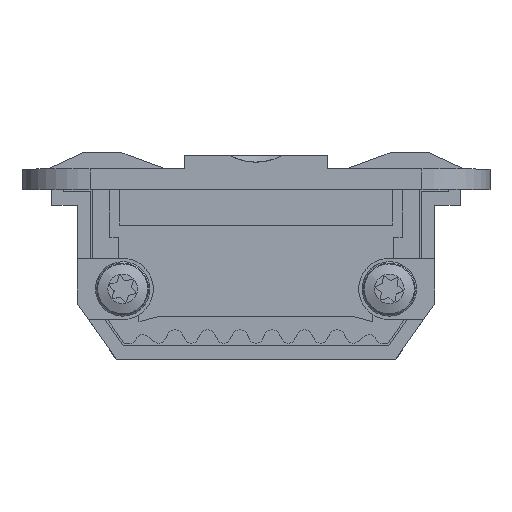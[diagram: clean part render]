
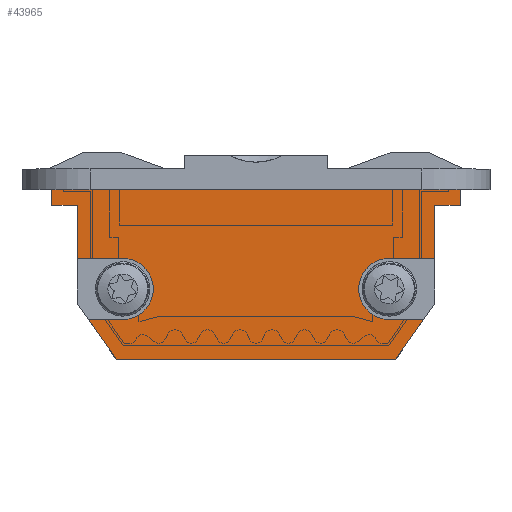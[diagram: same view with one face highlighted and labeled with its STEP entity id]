
A CAD part, top view. The second image highlights one B-rep face of the part: STEP entity #43965.
In plain terms, the highlighted planar face has unit normal (0, 0, 1) as drawn and (0, -1, 0) by its records, which use the part's own axes.
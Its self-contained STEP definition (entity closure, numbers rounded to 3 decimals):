
#2656=LINE('',#56630,#5562);
#2673=LINE('',#56666,#5579);
#2692=LINE('',#56704,#5598);
#2711=LINE('',#56744,#5617);
#2717=LINE('',#56756,#5623);
#2720=LINE('',#56762,#5626);
#2724=LINE('',#56776,#5630);
#2725=LINE('',#56778,#5631);
#2726=LINE('',#56780,#5632);
#2727=LINE('',#56781,#5633);
#2728=LINE('',#56785,#5634);
#2729=LINE('',#56786,#5635);
#2730=LINE('',#56790,#5636);
#2731=LINE('',#56791,#5637);
#5562=VECTOR('',#48601,1000.);
#5579=VECTOR('',#48626,1000.);
#5598=VECTOR('',#48651,1000.);
#5617=VECTOR('',#48678,1000.);
#5623=VECTOR('',#48686,1000.);
#5626=VECTOR('',#48691,1000.);
#5630=VECTOR('',#48705,1000.);
#5631=VECTOR('',#48708,1000.);
#5632=VECTOR('',#48709,1000.);
#5633=VECTOR('',#48710,1000.);
#5634=VECTOR('',#48713,1000.);
#5635=VECTOR('',#48714,1000.);
#5636=VECTOR('',#48717,1000.);
#5637=VECTOR('',#48718,1000.);
#8177=CIRCLE('',#45945,2.25);
#8178=CIRCLE('',#45946,2.25);
#9612=ORIENTED_EDGE('',*,*,#18841,.T.);
#9613=ORIENTED_EDGE('',*,*,#18767,.T.);
#9614=ORIENTED_EDGE('',*,*,#18785,.F.);
#9615=ORIENTED_EDGE('',*,*,#18842,.F.);
#9616=ORIENTED_EDGE('',*,*,#18804,.T.);
#9617=ORIENTED_EDGE('',*,*,#18843,.T.);
#9618=ORIENTED_EDGE('',*,*,#18844,.T.);
#9619=ORIENTED_EDGE('',*,*,#18845,.T.);
#9620=ORIENTED_EDGE('',*,*,#18834,.T.);
#9621=ORIENTED_EDGE('',*,*,#18840,.T.);
#9622=ORIENTED_EDGE('',*,*,#18825,.T.);
#9623=ORIENTED_EDGE('',*,*,#18846,.T.);
#9624=ORIENTED_EDGE('',*,*,#18847,.T.);
#9625=ORIENTED_EDGE('',*,*,#18848,.T.);
#9626=ORIENTED_EDGE('',*,*,#18831,.T.);
#9627=ORIENTED_EDGE('',*,*,#18849,.T.);
#18767=EDGE_CURVE('',#23485,#23484,#2656,.T.);
#18785=EDGE_CURVE('',#23499,#23484,#2673,.T.);
#18804=EDGE_CURVE('',#23516,#23515,#2692,.T.);
#18825=EDGE_CURVE('',#23533,#23534,#2711,.T.);
#18831=EDGE_CURVE('',#23538,#23537,#2717,.T.);
#18834=EDGE_CURVE('',#23540,#23541,#2720,.T.);
#18840=EDGE_CURVE('',#23541,#23533,#2724,.T.);
#18841=EDGE_CURVE('',#23545,#23485,#2725,.T.);
#18842=EDGE_CURVE('',#23516,#23499,#2726,.T.);
#18843=EDGE_CURVE('',#23515,#23546,#2727,.T.);
#18844=EDGE_CURVE('',#23546,#23547,#8177,.T.);
#18845=EDGE_CURVE('',#23547,#23540,#2728,.T.);
#18846=EDGE_CURVE('',#23534,#23548,#2729,.T.);
#18847=EDGE_CURVE('',#23548,#23549,#8178,.T.);
#18848=EDGE_CURVE('',#23549,#23538,#2730,.T.);
#18849=EDGE_CURVE('',#23537,#23545,#2731,.T.);
#23484=VERTEX_POINT('',#56629);
#23485=VERTEX_POINT('',#56631);
#23499=VERTEX_POINT('',#56665);
#23515=VERTEX_POINT('',#56703);
#23516=VERTEX_POINT('',#56705);
#23533=VERTEX_POINT('',#56745);
#23534=VERTEX_POINT('',#56746);
#23537=VERTEX_POINT('',#56755);
#23538=VERTEX_POINT('',#56757);
#23540=VERTEX_POINT('',#56763);
#23541=VERTEX_POINT('',#56764);
#23545=VERTEX_POINT('',#56779);
#23546=VERTEX_POINT('',#56782);
#23547=VERTEX_POINT('',#56784);
#23548=VERTEX_POINT('',#56787);
#23549=VERTEX_POINT('',#56789);
#26680=EDGE_LOOP('',(#9612,#9613,#9614,#9615,#9616,#9617,#9618,#9619,#9620,
#9621,#9622,#9623,#9624,#9625,#9626,#9627));
#28813=FACE_BOUND('',#26680,.T.);
#30868=PLANE('',#45944);
#43965=ADVANCED_FACE('',(#28813),#30868,.F.);
#45944=AXIS2_PLACEMENT_3D('',#56777,#48706,#48707);
#45945=AXIS2_PLACEMENT_3D('',#56783,#48711,#48712);
#45946=AXIS2_PLACEMENT_3D('',#56788,#48715,#48716);
#48601=DIRECTION('',(-1.,0.,0.));
#48626=DIRECTION('',(0.,0.,1.));
#48651=DIRECTION('',(0.,0.,-1.));
#48678=DIRECTION('',(0.574,0.,0.819));
#48686=DIRECTION('',(0.,0.,1.));
#48691=DIRECTION('',(0.574,0.,-0.819));
#48705=DIRECTION('',(1.,0.,0.));
#48706=DIRECTION('',(0.,1.,0.));
#48707=DIRECTION('',(0.,0.,1.));
#48708=DIRECTION('',(0.,0.,1.));
#48709=DIRECTION('',(-1.,0.,0.));
#48710=DIRECTION('',(1.,0.,0.));
#48711=DIRECTION('',(0.,1.,0.));
#48712=DIRECTION('',(-1.,0.,0.));
#48713=DIRECTION('',(-1.,0.,0.));
#48714=DIRECTION('',(-1.,0.,0.));
#48715=DIRECTION('',(0.,1.,0.));
#48716=DIRECTION('',(1.,0.,0.));
#48717=DIRECTION('',(1.,0.,0.));
#48718=DIRECTION('',(1.,0.,0.));
#56629=CARTESIAN_POINT('',(-15.,0.,1.8));
#56630=CARTESIAN_POINT('',(15.,0.,1.8));
#56631=CARTESIAN_POINT('',(15.,0.,1.8));
#56665=CARTESIAN_POINT('',(-15.,0.,0.65));
#56666=CARTESIAN_POINT('',(-15.,0.,1.8));
#56703=CARTESIAN_POINT('',(-13.15,0.,-3.25));
#56704=CARTESIAN_POINT('',(-13.15,0.,1.8));
#56705=CARTESIAN_POINT('',(-13.15,0.,0.65));
#56744=CARTESIAN_POINT('',(13.15,0.,-6.556));
#56745=CARTESIAN_POINT('',(10.284,0.,-10.65));
#56746=CARTESIAN_POINT('',(12.314,0.,-7.75));
#56755=CARTESIAN_POINT('',(13.15,0.,0.65));
#56756=CARTESIAN_POINT('',(13.15,0.,-6.556));
#56757=CARTESIAN_POINT('',(13.15,0.,-3.25));
#56762=CARTESIAN_POINT('',(-13.15,0.,-6.556));
#56763=CARTESIAN_POINT('',(-12.314,0.,-7.75));
#56764=CARTESIAN_POINT('',(-10.284,0.,-10.65));
#56776=CARTESIAN_POINT('',(-10.284,0.,-10.65));
#56777=CARTESIAN_POINT('',(0.,0.,0.));
#56778=CARTESIAN_POINT('',(15.,0.,1.8));
#56779=CARTESIAN_POINT('',(15.,0.,0.65));
#56780=CARTESIAN_POINT('',(-15.,0.,0.65));
#56781=CARTESIAN_POINT('',(-9.8,0.,-3.25));
#56782=CARTESIAN_POINT('',(-9.8,0.,-3.25));
#56783=CARTESIAN_POINT('',(-9.8,0.,-5.5));
#56784=CARTESIAN_POINT('',(-9.8,0.,-7.75));
#56785=CARTESIAN_POINT('',(-9.8,0.,-7.75));
#56786=CARTESIAN_POINT('',(9.8,0.,-7.75));
#56787=CARTESIAN_POINT('',(9.8,0.,-7.75));
#56788=CARTESIAN_POINT('',(9.8,0.,-5.5));
#56789=CARTESIAN_POINT('',(9.8,0.,-3.25));
#56790=CARTESIAN_POINT('',(9.8,0.,-3.25));
#56791=CARTESIAN_POINT('',(15.,0.,0.65));
